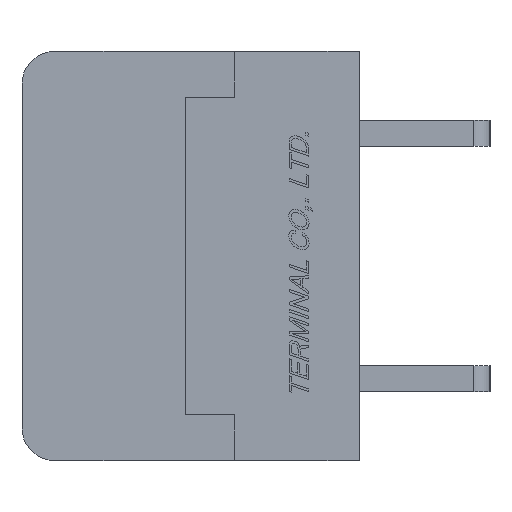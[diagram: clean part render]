
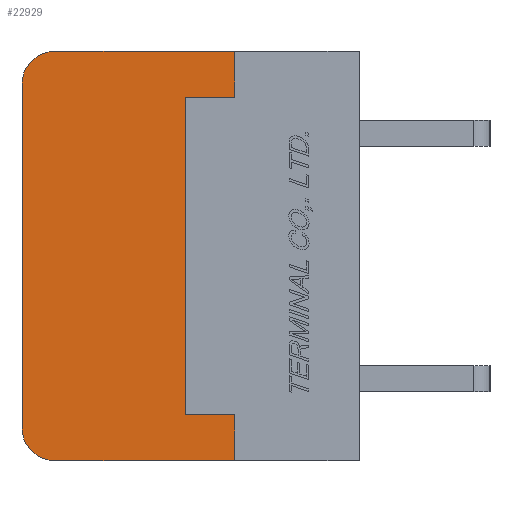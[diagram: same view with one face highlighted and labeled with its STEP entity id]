
A CAD part, left-side view. The second image highlights one B-rep face of the part: STEP entity #22929.
In plain terms, the highlighted planar face has unit normal (-1, 0, 0).
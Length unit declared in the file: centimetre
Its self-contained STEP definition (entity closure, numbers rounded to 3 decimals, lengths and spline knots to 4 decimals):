
#1220=CIRCLE('',#38636,0.1);
#1222=CIRCLE('',#38639,0.1);
#3185=VERTEX_POINT('',#35648);
#3186=VERTEX_POINT('',#35650);
#3188=VERTEX_POINT('',#35656);
#3190=VERTEX_POINT('',#35662);
#3191=VERTEX_POINT('',#35669);
#3192=VERTEX_POINT('',#35670);
#3193=VERTEX_POINT('',#35673);
#3194=VERTEX_POINT('',#35675);
#3195=VERTEX_POINT('',#35677);
#3196=VERTEX_POINT('',#35679);
#5629=VECTOR('',#28258,1.);
#5635=VECTOR('',#28278,1.);
#5636=VECTOR('',#28279,1.);
#5637=VECTOR('',#28280,1.);
#5638=VECTOR('',#28281,1.);
#5639=VECTOR('',#28282,1.);
#5640=VECTOR('',#28283,1.);
#5641=VECTOR('',#28284,1.);
#8141=LINE('',#35649,#5629);
#8147=LINE('',#35668,#5635);
#8148=LINE('',#35671,#5636);
#8149=LINE('',#35672,#5637);
#8150=LINE('',#35674,#5638);
#8151=LINE('',#35676,#5639);
#8152=LINE('',#35678,#5640);
#8153=LINE('',#35680,#5641);
#11513=EDGE_CURVE('',#3185,#3186,#8141,.T.);
#11517=EDGE_CURVE('',#3188,#3185,#1220,.T.);
#11519=EDGE_CURVE('',#3186,#3190,#1222,.T.);
#11523=EDGE_CURVE('',#3191,#3192,#8147,.T.);
#11524=EDGE_CURVE('',#3190,#3191,#8148,.T.);
#11525=EDGE_CURVE('',#3193,#3188,#8149,.T.);
#11526=EDGE_CURVE('',#3194,#3193,#8150,.T.);
#11527=EDGE_CURVE('',#3195,#3194,#8151,.T.);
#11528=EDGE_CURVE('',#3196,#3195,#8152,.T.);
#11529=EDGE_CURVE('',#3192,#3196,#8153,.T.);
#17815=ORIENTED_EDGE('',*,*,#11523,.F.);
#17816=ORIENTED_EDGE('',*,*,#11524,.F.);
#17817=ORIENTED_EDGE('',*,*,#11519,.F.);
#17818=ORIENTED_EDGE('',*,*,#11513,.F.);
#17819=ORIENTED_EDGE('',*,*,#11517,.F.);
#17820=ORIENTED_EDGE('',*,*,#11525,.F.);
#17821=ORIENTED_EDGE('',*,*,#11526,.F.);
#17822=ORIENTED_EDGE('',*,*,#11527,.F.);
#17823=ORIENTED_EDGE('',*,*,#11528,.F.);
#17824=ORIENTED_EDGE('',*,*,#11529,.F.);
#20180=EDGE_LOOP('',(#17815,#17816,#17817,#17818,#17819,#17820,#17821,#17822,
#17823,#17824));
#21596=FACE_BOUND('',#20180,.T.);
#22929=ADVANCED_FACE('',(#21596),#23887,.F.);
#23887=PLANE('',#38641);
#28258=DIRECTION('',(0.,0.,1.));
#28265=DIRECTION('',(1.,0.,0.));
#28266=DIRECTION('',(0.,0.,-0.1));
#28271=DIRECTION('',(1.,0.,0.));
#28272=DIRECTION('',(0.,0.,-0.1));
#28277=DIRECTION('',(1.,0.,0.));
#28278=DIRECTION('',(0.,0.,-1.));
#28279=DIRECTION('',(0.,-1.,0.));
#28280=DIRECTION('',(0.,1.,0.));
#28281=DIRECTION('',(0.,0.,-1.));
#28282=DIRECTION('',(0.,-1.,0.));
#28283=DIRECTION('',(0.,0.,-1.));
#28284=DIRECTION('',(0.,1.,0.));
#35648=CARTESIAN_POINT('',(-0.762,1.03,-0.525));
#35649=CARTESIAN_POINT('',(-0.762,1.03,-0.525));
#35650=CARTESIAN_POINT('',(-0.762,1.03,0.525));
#35656=CARTESIAN_POINT('',(-0.762,0.93,-0.625));
#35657=CARTESIAN_POINT('',(-0.762,0.93,-0.525));
#35661=CARTESIAN_POINT('',(-0.762,0.93,0.525));
#35662=CARTESIAN_POINT('',(-0.762,0.93,0.625));
#35667=CARTESIAN_POINT('',(-0.762,0.5047,0.));
#35668=CARTESIAN_POINT('',(-0.762,0.38,0.625));
#35669=CARTESIAN_POINT('',(-0.762,0.38,0.625));
#35670=CARTESIAN_POINT('',(-0.762,0.38,0.485));
#35671=CARTESIAN_POINT('',(-0.762,0.93,0.625));
#35672=CARTESIAN_POINT('',(-0.762,0.,-0.625));
#35673=CARTESIAN_POINT('',(-0.762,0.38,-0.625));
#35674=CARTESIAN_POINT('',(-0.762,0.38,-0.485));
#35675=CARTESIAN_POINT('',(-0.762,0.38,-0.485));
#35676=CARTESIAN_POINT('',(-0.762,0.53,-0.485));
#35677=CARTESIAN_POINT('',(-0.762,0.53,-0.485));
#35678=CARTESIAN_POINT('',(-0.762,0.53,0.485));
#35679=CARTESIAN_POINT('',(-0.762,0.53,0.485));
#35680=CARTESIAN_POINT('',(-0.762,0.38,0.485));
#38636=AXIS2_PLACEMENT_3D('',#35657,#28265,#28266);
#38639=AXIS2_PLACEMENT_3D('',#35661,#28271,#28272);
#38641=AXIS2_PLACEMENT_3D('',#35667,#28277,$);
